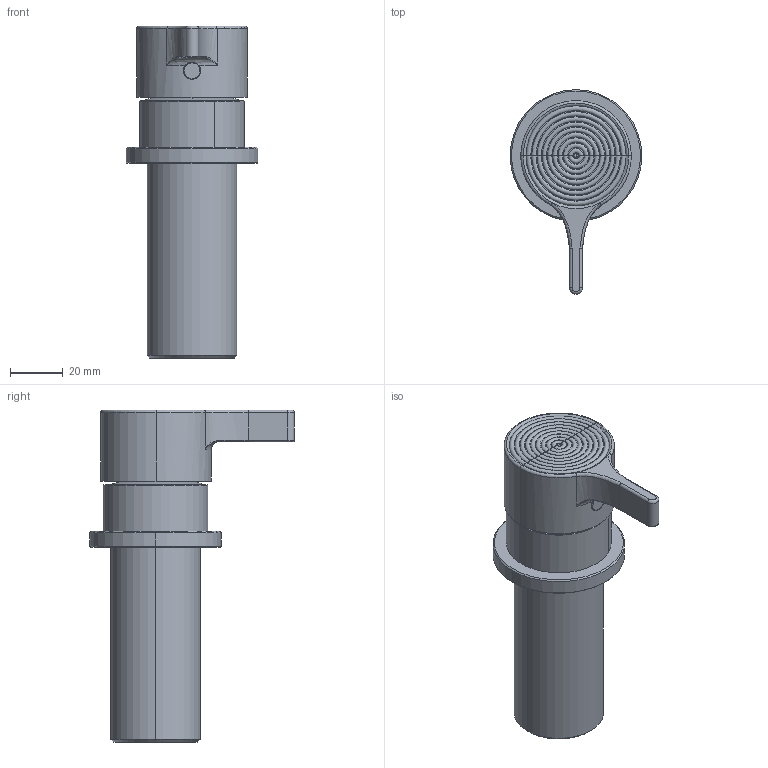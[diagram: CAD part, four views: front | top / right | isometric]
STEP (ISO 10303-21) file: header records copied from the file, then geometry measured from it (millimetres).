
FILE_DESCRIPTION (( 'STEP AP203' ), '1' );
FILE_NAME ('DGE25.STEP', '2025-03-04T08:02:37', ( '' ), ( '' ), 'SwSTEP 2.0', 'SolidWorks 2024', '' );
FILE_SCHEMA (( 'CONFIG_CONTROL_DESIGN' ));
Length unit declared in the file: millimetre
Products named in the file (14): C25.1168.00.0; C21.1192.00.1; C24.2812.00; AS1126; C24.2814.00; C25.1153.00.0; C10.00.0020; DGE25; C11.14.0003; C21.1191.00.1; C11.14.0009; C47.00.0023.01; C24.1904.00.0; C24.0120.00.1
Assembly tree (13 placements, depth 3):
  DGE25
    C24.1904.00.0
    C24.0120.00.1
    C10.00.0020
    C21.1191.00.1
    C21.1192.00.1
    C25.1153.00.0
    C25.1168.00.0
    AS1126
      C24.2814.00
      C24.2812.00
      C11.14.0009
      C47.00.0023.01
      C11.14.0003
Bounding box: 50 x 77.7 x 126 mm (x, y, z)
Volume: 84415.7 mm3; surface area: 55787.5 mm2
Topology: 13 solids, 13 shells, 495 faces, 1167 edges, 719 vertices
Faces by surface type: cylinder 167, plane 160, cone 103, torus 46, bspline 17, sphere 2
Entity records: 17269 total; most frequent: CARTESIAN_POINT 4296, DIRECTION 2548, ORIENTED_EDGE 2306, EDGE_CURVE 1153, AXIS2_PLACEMENT_3D 1023, VERTEX_POINT 719, EDGE_LOOP 552, CIRCLE 528
